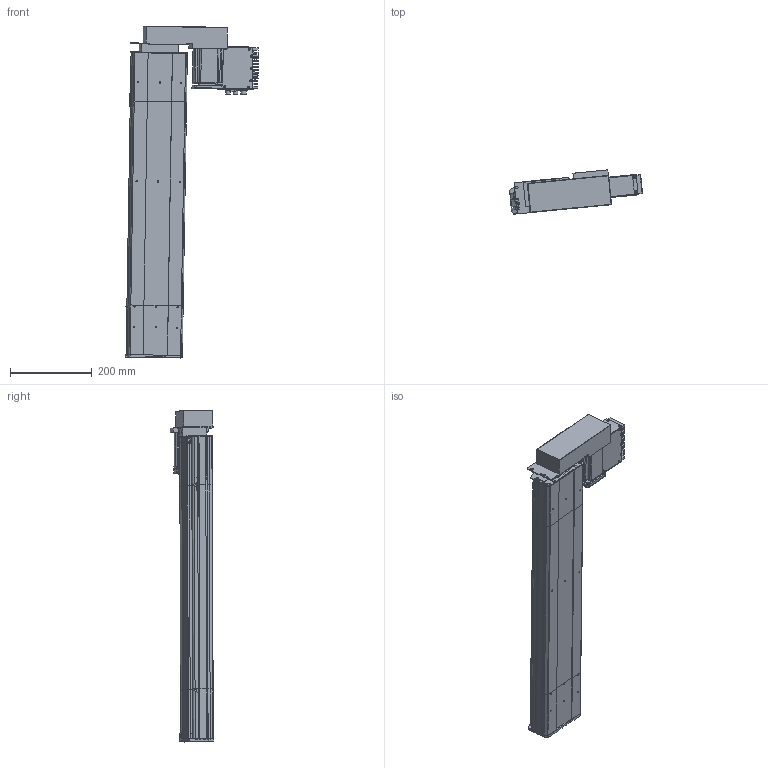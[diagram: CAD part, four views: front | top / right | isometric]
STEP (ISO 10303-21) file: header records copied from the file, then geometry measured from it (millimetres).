
FILE_DESCRIPTION (( 'STEP AP203' ), '1' );
FILE_NAME ('D14 TSH M4 BL L10 S600.STEP', '2012-10-11T07:52:22', ( '' ), ( '' ), 'SwSTEP 2.0', 'SolidWorks 2010', '' );
FILE_SCHEMA (( 'CONFIG_CONTROL_DESIGN' ));
Products named in the file (22): Pièce502; Pièce500; plaque de bout head D14 BL; T犨e contre le moteur_2; Moteur_2; Couvercle_2; Tôle latérale_2; Connecteur rond D12 4cts_2; couvercle D14 head_Default_2; plaque de  bout tail D14_Default_2; D14 TSH M4 BL L10 S600; corp head D14_Default_2; plaque de  bout head D14 MD_Default_2; corpl tail D14_Default_2; Sub D 9cts_2; T犨e fond_2; Connecteur rond D10 3cts_2; Tôle Arrière_2; Moteur 70BLDC90A_2; Colonnette_2; Radiateur_2; Vis TF 3 torkx_2
Assembly tree (49 placements, depth 3):
  D14 TSH M4 BL L10 S600
    corpl tail D14_Default_2
    couvercle D14 head_Default_2  x2
    Pièce500
    plaque de bout head D14 BL
    Pièce502
    corp head D14_Default_2
    plaque de  bout tail D14_Default_2
    plaque de  bout head D14 MD_Default_2
    Moteur_2
      Tôle latérale_2  x2
      Vis TF 3 torkx_2  x26
      T犨e fond_2
      Couvercle_2
      Sub D 9cts_2
      Colonnette_2
      T犨e contre le moteur_2
      Connecteur rond D12 4cts_2
      Tôle Arrière_2
      Moteur 70BLDC90A_2
      Radiateur_2
      Connecteur rond D10 3cts_2  x2
Bounding box: 326.04 x 107.75 x 813.7 mm (x, y, z)
Volume: 3434505.3 mm3; surface area: 1009097.8 mm2
Topology: 70 solids, 70 shells, 2406 faces, 6282 edges, 4141 vertices
Faces by surface type: plane 1299, cylinder 843, cone 134, bspline 130
Entity records: 64484 total; most frequent: CARTESIAN_POINT 20825, ORIENTED_EDGE 8522, DIRECTION 8148, EDGE_CURVE 4261, LINE 2848, VECTOR 2848, VERTEX_POINT 2815, AXIS2_PLACEMENT_3D 2650
